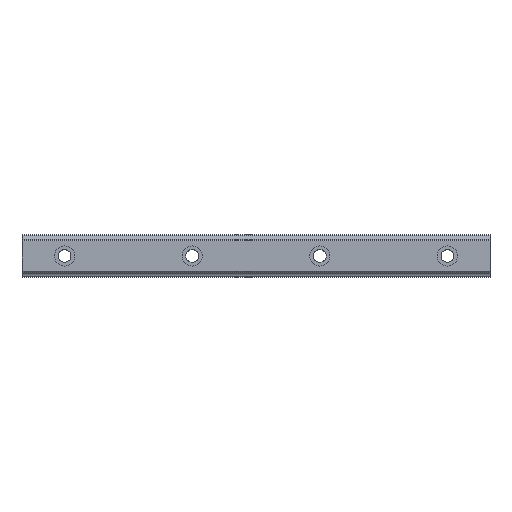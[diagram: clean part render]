
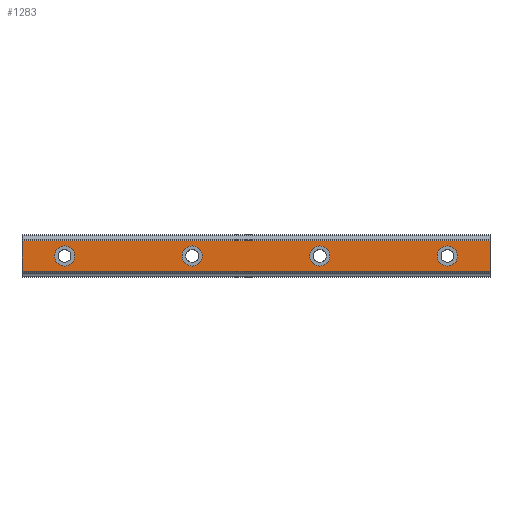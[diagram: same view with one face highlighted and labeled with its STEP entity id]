
A CAD part, top view. The second image highlights one B-rep face of the part: STEP entity #1283.
In plain terms, the highlighted planar face has unit normal (0, 0, 1).
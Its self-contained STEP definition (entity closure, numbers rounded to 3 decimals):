
#964=CARTESIAN_POINT('POINT67',(200.,-7.26,
   17.5));
#965=VERTEX_POINT('VERTEX67',#964);
#972=CARTESIAN_POINT('POINT68',(-20.,-7.26,
   17.5));
#973=VERTEX_POINT('VERTEX68',#972);
#974=CARTESIAN_POINT('POS113',(-20.,-7.26,
   17.5));
#975=DIRECTION('DIR160',(1.,0.,0.));
#976=VECTOR('VEC66',#975,1.);
#977=LINE('STRAIGHT66',#974,#976);
#978=EDGE_CURVE('EDGE96',#973,#965,#977,.T.);
#1007=CARTESIAN_POINT('POINT69',(-20.,7.26,
   17.5));
#1008=VERTEX_POINT('VERTEX69',#1007);
#1009=CARTESIAN_POINT('POS116',(-20.,-7.26,
   17.5));
#1010=DIRECTION('DIR164',(0.,1.,0.));
#1011=VECTOR('VEC68',#1010,1.);
#1012=LINE('STRAIGHT68',#1009,#1011);
#1013=EDGE_CURVE('EDGE98',#973,#1008,#1012,.T.);
#1039=CARTESIAN_POINT('POINT70',(200.,7.26,
   17.5));
#1040=VERTEX_POINT('VERTEX70',#1039);
#1049=CARTESIAN_POINT('POS120',(-20.,7.26,
   17.5));
#1050=DIRECTION('DIR169',(1.,0.,0.));
#1051=VECTOR('VEC71',#1050,1.);
#1052=LINE('STRAIGHT71',#1049,#1051);
#1053=EDGE_CURVE('EDGE101',#1008,#1040,#1052,.T.);
#1076=CARTESIAN_POINT('POS122',(200.,-7.26,
   17.5));
#1077=DIRECTION('DIR172',(0.,1.,0.));
#1078=VECTOR('VEC72',#1077,1.);
#1079=LINE('STRAIGHT72',#1076,#1078);
#1080=EDGE_CURVE('EDGE102',#965,#1040,#1079,.T.);
#1100=CARTESIAN_POINT('POINT71',(64.75,0.,
   17.5));
#1101=VERTEX_POINT('VERTEX71',#1100);
#1109=CARTESIAN_POINT('POINT72',(55.25,0.,
   17.5));
#1110=VERTEX_POINT('VERTEX72',#1109);
#1117=CARTESIAN_POINT('POS126',(60.,0.,17.5)
   );
#1118=DIRECTION('DIR177',(0.,0.,-1.));
#1119=DIRECTION('DIR178',(1.,0.,0.));
#1120=AXIS2_PLACEMENT_3D('AXIS52',#1117,#1118,#1119);
#1121=CIRCLE('ELLIPSE20',#1120,4.75);
#1122=EDGE_CURVE('EDGE105',#1101,#1110,#1121,.T.);
#1133=EDGE_CURVE('EDGE106',#1110,#1101,#1121,.T.);
#1140=CARTESIAN_POINT('POINT73',(124.75,0.,
   17.5));
#1141=VERTEX_POINT('VERTEX73',#1140);
#1149=CARTESIAN_POINT('POINT74',(115.25,0.,
   17.5));
#1150=VERTEX_POINT('VERTEX74',#1149);
#1157=CARTESIAN_POINT('POS130',(120.,0.,17.5)
   );
#1158=DIRECTION('DIR183',(0.,0.,-1.));
#1159=DIRECTION('DIR184',(1.,0.,0.));
#1160=AXIS2_PLACEMENT_3D('AXIS54',#1157,#1158,#1159);
#1161=CIRCLE('ELLIPSE21',#1160,4.75);
#1162=EDGE_CURVE('EDGE109',#1141,#1150,#1161,.T.);
#1173=EDGE_CURVE('EDGE110',#1150,#1141,#1161,.T.);
#1180=CARTESIAN_POINT('POINT75',(184.75,0.,
   17.5));
#1181=VERTEX_POINT('VERTEX75',#1180);
#1189=CARTESIAN_POINT('POINT76',(175.25,0.,
   17.5));
#1190=VERTEX_POINT('VERTEX76',#1189);
#1197=CARTESIAN_POINT('POS134',(180.,0.,17.5)
   );
#1198=DIRECTION('DIR189',(0.,0.,-1.));
#1199=DIRECTION('DIR190',(1.,0.,0.));
#1200=AXIS2_PLACEMENT_3D('AXIS56',#1197,#1198,#1199);
#1201=CIRCLE('ELLIPSE22',#1200,4.75);
#1202=EDGE_CURVE('EDGE113',#1181,#1190,#1201,.T.);
#1213=EDGE_CURVE('EDGE114',#1190,#1181,#1201,.T.);
#1245=ORIENTED_EDGE('COEDGE221',*,*,#1213,.T.);
#1246=ORIENTED_EDGE('COEDGE222',*,*,#1202,.T.);
#1247=EDGE_LOOP('NONE',(#1245,#1246));
#1248=FACE_BOUND('LOOP1',#1247,.T.);
#1249=ORIENTED_EDGE('COEDGE223',*,*,#1173,.T.);
#1250=ORIENTED_EDGE('COEDGE224',*,*,#1162,.T.);
#1251=EDGE_LOOP('NONE',(#1249,#1250));
#1252=FACE_BOUND('LOOP1',#1251,.T.);
#1253=ORIENTED_EDGE('COEDGE225',*,*,#1133,.T.);
#1254=ORIENTED_EDGE('COEDGE226',*,*,#1122,.T.);
#1255=EDGE_LOOP('NONE',(#1253,#1254));
#1256=FACE_BOUND('LOOP1',#1255,.T.);
#1257=CARTESIAN_POINT('POINT79',(-4.75,0.,
   17.5));
#1258=VERTEX_POINT('VERTEX79',#1257);
#1259=CARTESIAN_POINT('POINT80',(4.75,0.,
   17.5));
#1260=VERTEX_POINT('VERTEX80',#1259);
#1261=CARTESIAN_POINT('POS138',(0.,0.,17.5)
   );
#1262=DIRECTION('DIR197',(0.,0.,-1.));
#1263=DIRECTION('DIR198',(1.,0.,0.));
#1264=AXIS2_PLACEMENT_3D('AXIS60',#1261,#1262,#1263);
#1265=CIRCLE('ELLIPSE24',#1264,4.75);
#1266=EDGE_CURVE('EDGE117',#1258,#1260,#1265,.T.);
#1267=ORIENTED_EDGE('COEDGE227',*,*,#1266,.T.);
#1268=EDGE_CURVE('EDGE118',#1260,#1258,#1265,.T.);
#1269=ORIENTED_EDGE('COEDGE228',*,*,#1268,.T.);
#1270=EDGE_LOOP('NONE',(#1267,#1269));
#1271=FACE_BOUND('LOOP1',#1270,.T.);
#1272=ORIENTED_EDGE('COEDGE229',*,*,#1080,.T.);
#1273=ORIENTED_EDGE('COEDGE230',*,*,#1053,.F.);
#1274=ORIENTED_EDGE('COEDGE231',*,*,#1013,.F.);
#1275=ORIENTED_EDGE('COEDGE232',*,*,#978,.T.);
#1276=EDGE_LOOP('NONE',(#1272,#1273,#1274,#1275));
#1277=FACE_BOUND('LOOP1',#1276,.T.);
#1278=CARTESIAN_POINT('POS139',(-20.,-7.26,
   17.5));
#1279=DIRECTION('DIR199',(0.,0.,1.));
#1280=DIRECTION('DIR200',(1.,0.,0.));
#1281=AXIS2_PLACEMENT_3D('AXIS61',#1278,#1279,#1280);
#1282=PLANE('PLANE26',#1281);
#1283=ADVANCED_FACE('FACE44',(#1248,#1252,#1256,#1271,#1277),#1282,.T.);
